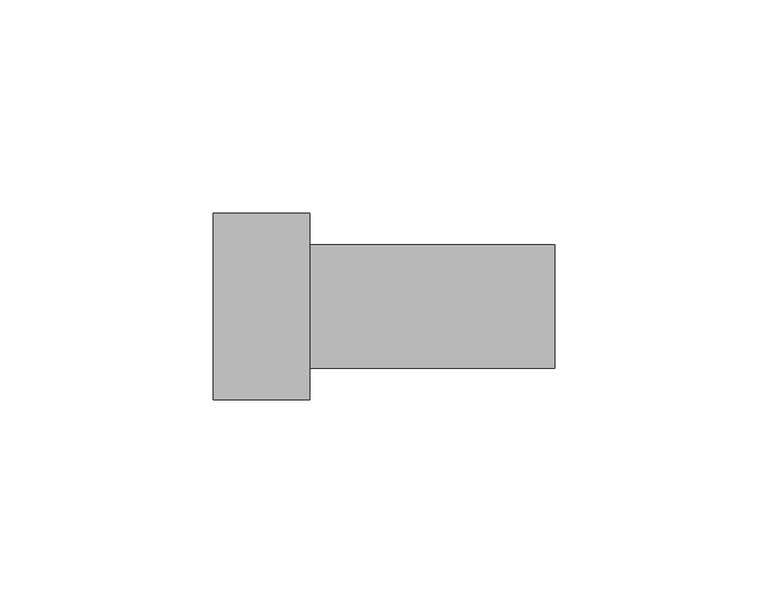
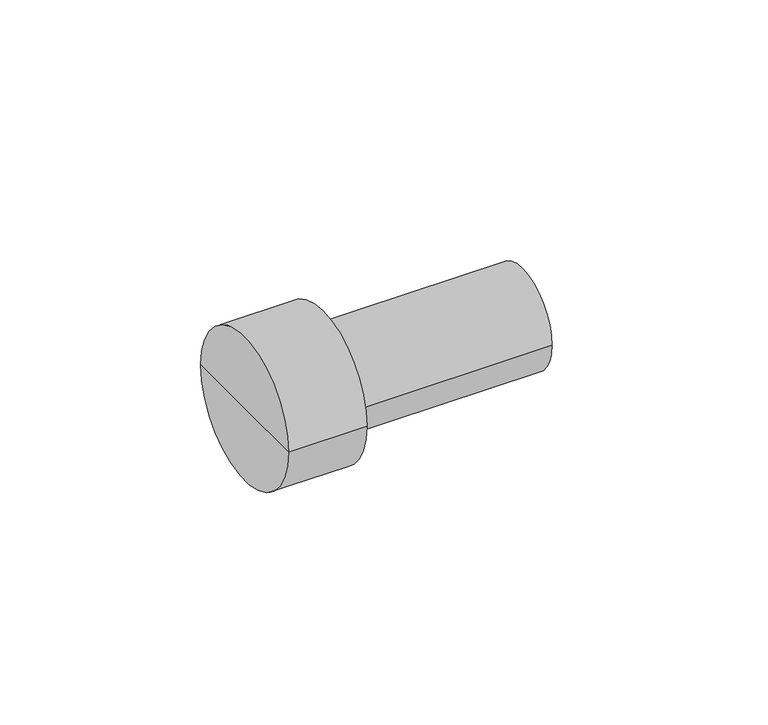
"""IFC4 building model written with IfcOpenShell, lengths in millimetres: cable carrier fitting geometry, Муфта прямая труба-коробка BS : CTA10D-BS25-K41-050."""

from ifc_helpers import new_model, si_unit, frame, origin, place, context, project, spatial, circle_curve, source, transform, mapped, element, save
from ifc_brep_helpers import plane_surface, cylinder_surface, advanced_brep


def cable_carrier_fitting_577a40cd(model_context):
    return source(origin(), model_context, "Body", "AdvancedBrep", [
        advanced_brep(
        [(-17.4590195, -14.5, 0.0), (-17.4590195, 14.5, 0.0), (40.0, 14.5, 0.0), (40.0, -14.5, 0.0), (-40.0, 0.0, 0.0), (-40.0, 21.8253393, 0.0), (-40.0, -21.8253393, 0.0), (40.0, 0.0, 0.0), (-17.4590195, -21.8253393, 0.0), (-17.4590195, 21.8253393, 0.0)],
        [
            (0, 1, circle_curve(frame((-17.4590195, 0.0, 0.0), z_axis=(1.0, 0.0, 0.0), x_axis=(0.0, 1.0, 0.0)), 14.5)),
            (1, 2),
            (2, 3, circle_curve(frame((40.0, 0.0, 0.0), z_axis=(-1.0, 0.0, 0.0), x_axis=(0.0, 1.0, 0.0)), 14.5)),
            (3, 0),
            (1, 0, circle_curve(frame((-17.4590195, 0.0, 0.0), z_axis=(1.0, 0.0, 0.0), x_axis=(0.0, 1.0, 0.0)), 14.5)),
            (3, 2, circle_curve(frame((40.0, 0.0, 0.0), z_axis=(-1.0, 0.0, 0.0), x_axis=(0.0, 1.0, 0.0)), 14.5)),
            (4, 5),
            (5, 6, circle_curve(frame((-40.0, 0.0, 0.0), z_axis=(-1.0, 0.0, 0.0), x_axis=(0.0, 1.0, 0.0)), 21.8253393)),
            (6, 4),
            (6, 5, circle_curve(frame((-40.0, 0.0, 0.0), z_axis=(-1.0, 0.0, 0.0), x_axis=(0.0, 1.0, 0.0)), 21.8253393)),
            (2, 7),
            (7, 3),
            (8, 9, circle_curve(frame((-17.4590195, 0.0, 0.0), z_axis=(1.0, 0.0, 0.0), x_axis=(0.0, 1.0, 0.0)), 21.8253393)),
            (9, 1),
            (0, 8),
            (9, 8, circle_curve(frame((-17.4590195, 0.0, 0.0), z_axis=(1.0, 0.0, 0.0), x_axis=(0.0, 1.0, 0.0)), 21.8253393)),
            (5, 9),
            (8, 6),
        ],
        [
            cylinder_surface(frame((1965.0, 0.0, 0.0), z_axis=(-1.0, 0.0, 0.0), x_axis=(0.0, 1.0, 0.0)), 14.5),
            plane_surface(frame((-40.0, 0.0, 0.0), z_axis=(-1.0, 0.0, 0.0), x_axis=(0.0, 1.0, 0.0))),
            plane_surface(frame((40.0, 0.0, 0.0), z_axis=(1.0, 0.0, 0.0), x_axis=(0.0, 1.0, 0.0))),
            plane_surface(frame((-17.4590195, 0.0, 0.0), z_axis=(1.0, 0.0, 0.0), x_axis=(0.0, 1.0, 0.0))),
            cylinder_surface(frame((1965.0, 0.0, 0.0), z_axis=(-1.0, 0.0, 0.0), x_axis=(0.0, 1.0, 0.0)), 21.8253393),
        ],
        [
            (0, [[1, 2, 3, 4]]),
            (0, [[5, -4, 6, -2]]),
            (1, [[7, 8, 9]]),
            (1, [[-9, 10, -7]]),
            (2, [[-3, 11, 12]]),
            (2, [[-6, -12, -11]]),
            (3, [[13, 14, -1, 15]]),
            (3, [[16, -15, -5, -14]]),
            (4, [[-8, 17, -13, 18]]),
            (4, [[-10, -18, -16, -17]]),
        ],
    ),
    ])


if __name__ == "__main__":
    model = new_model("IFC4")
    model_context = context("Model", 3, world=origin())
    ifc_project = project(units=[si_unit("LENGTHUNIT", "METRE", prefix="MILLI")], contexts=[model_context])
    site = spatial("IfcSite", under=ifc_project)
    building = spatial("IfcBuilding", under=site)
    placement = place(None, origin())
    cable_carrier_fitting_shape = cable_carrier_fitting_577a40cd(model_context)
    element("IfcCableCarrierFitting", 1, ObjectType="Муфта прямая труба-коробка BS : CTA10D-BS25-K41-050", at=placement, inside=building, context=model_context, shape_type="MappedRepresentation", body=[
        mapped(cable_carrier_fitting_shape, transform((0.0, 0.0, 0.0), x_axis=(1.0, 0.0, 0.0), y_axis=(0.0, 1.0, 0.0), z_axis=(0.0, 0.0, 1.0))),
    ])
    save(model, "model.ifc")
